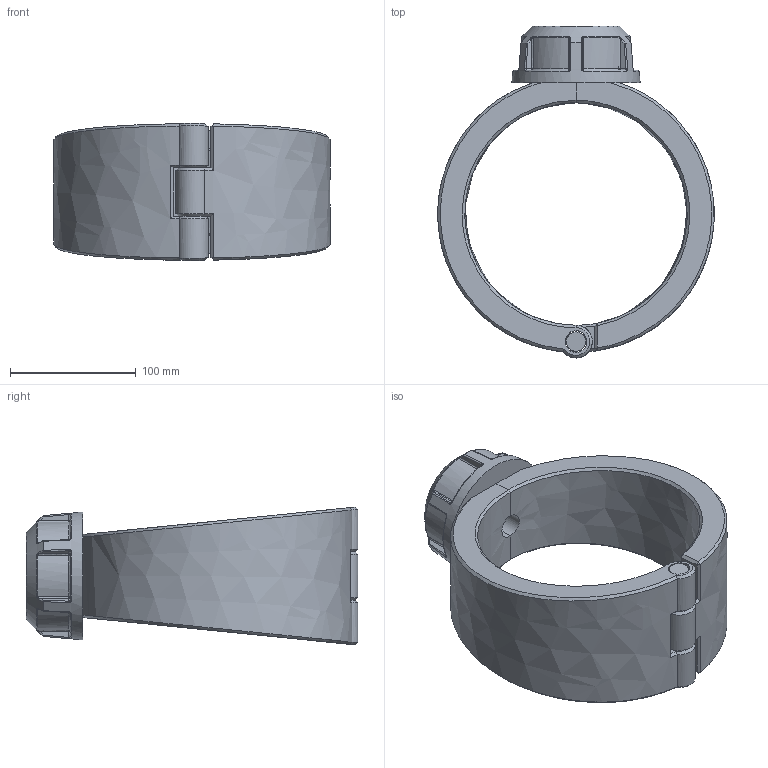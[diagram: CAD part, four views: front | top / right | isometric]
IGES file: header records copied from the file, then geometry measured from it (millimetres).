
Global section: file name: 163000177013; native system: Autodesk Inventor 2019; preprocessor: unknown; author: comp2; date: 20220203.115208; units: millimetre
Bounding box: 219.99 x 264 x 109.6 mm (x, y, z)
Volume: 1367519 mm3; surface area: 181982.7 mm2
Topology: 4 solids, 4 shells, 203 faces, 486 edges, 293 vertices
Faces by surface type: bspline 203
